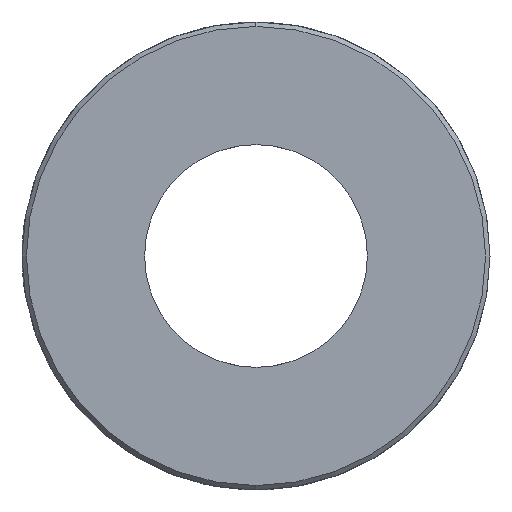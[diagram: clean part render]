
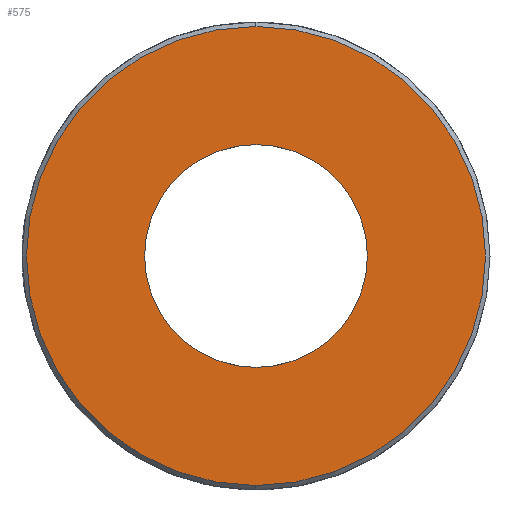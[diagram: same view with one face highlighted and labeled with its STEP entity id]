
A CAD part, left-side view. The second image highlights one B-rep face of the part: STEP entity #575.
In plain terms, the highlighted planar face has unit normal (-1, 0, 0) as drawn and (0, 0, 1) by its records, which use the part's own axes.
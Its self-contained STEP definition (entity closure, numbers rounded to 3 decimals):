
#39 = AXIS2_PLACEMENT_3D ( 'NONE', #410, #109, #480 ) ;
#85 = VERTEX_POINT ( 'NONE', #1339 ) ;
#109 = DIRECTION ( 'NONE',  ( 0., 0., 1. ) ) ;
#118 = PLANE ( 'NONE',  #517 ) ;
#130 = AXIS2_PLACEMENT_3D ( 'NONE', #1587, #1397, #795 ) ;
#144 = EDGE_CURVE ( 'NONE', #85, #1622, #930, .T. ) ;
#267 = FACE_OUTER_BOUND ( 'NONE', #1598, .T. ) ;
#354 = ORIENTED_EDGE ( 'NONE', *, *, #144, .F. ) ;
#360 = CARTESIAN_POINT ( 'NONE',  ( 0., 0., 5.5 ) ) ;
#410 = CARTESIAN_POINT ( 'NONE',  ( 0., 0., 5.5 ) ) ;
#480 = DIRECTION ( 'NONE',  ( 1., 0., 0. ) ) ;
#517 = AXIS2_PLACEMENT_3D ( 'NONE', #725, #605, #1668 ) ;
#520 = AXIS2_PLACEMENT_3D ( 'NONE', #1686, #1973, #773 ) ;
#575 = ADVANCED_FACE ( 'NONE', ( #267, #878 ), #118, .T. ) ;
#605 = DIRECTION ( 'NONE',  ( 0., 0., 1. ) ) ;
#628 = VERTEX_POINT ( 'NONE', #1543 ) ;
#725 = CARTESIAN_POINT ( 'NONE',  ( 0., 0., 5.5 ) ) ;
#773 = DIRECTION ( 'NONE',  ( 1., 0., 0. ) ) ;
#795 = DIRECTION ( 'NONE',  ( 1., 0., 0. ) ) ;
#828 = VERTEX_POINT ( 'NONE', #1862 ) ;
#834 = AXIS2_PLACEMENT_3D ( 'NONE', #360, #1584, #1242 ) ;
#878 = FACE_BOUND ( 'NONE', #1038, .T. ) ;
#930 = CIRCLE ( 'NONE', #39, 5. ) ;
#1038 = EDGE_LOOP ( 'NONE', ( #1625, #354 ) ) ;
#1175 = EDGE_CURVE ( 'NONE', #828, #628, #1925, .T. ) ;
#1212 = ORIENTED_EDGE ( 'NONE', *, *, #1175, .T. ) ;
#1242 = DIRECTION ( 'NONE',  ( 1., 0., 0. ) ) ;
#1289 = EDGE_CURVE ( 'NONE', #628, #828, #1739, .T. ) ;
#1339 = CARTESIAN_POINT ( 'NONE',  ( 5., 0., 5.5 ) ) ;
#1397 = DIRECTION ( 'NONE',  ( 0., 0., 1. ) ) ;
#1488 = ORIENTED_EDGE ( 'NONE', *, *, #1289, .T. ) ;
#1529 = CARTESIAN_POINT ( 'NONE',  ( -5., 0., 5.5 ) ) ;
#1543 = CARTESIAN_POINT ( 'NONE',  ( -10.3, 0., 5.5 ) ) ;
#1584 = DIRECTION ( 'NONE',  ( 0., 0., 1. ) ) ;
#1587 = CARTESIAN_POINT ( 'NONE',  ( 0., 0., 5.5 ) ) ;
#1598 = EDGE_LOOP ( 'NONE', ( #1488, #1212 ) ) ;
#1622 = VERTEX_POINT ( 'NONE', #1529 ) ;
#1625 = ORIENTED_EDGE ( 'NONE', *, *, #1728, .F. ) ;
#1668 = DIRECTION ( 'NONE',  ( 1., 0., 0. ) ) ;
#1686 = CARTESIAN_POINT ( 'NONE',  ( 0., 0., 5.5 ) ) ;
#1697 = CIRCLE ( 'NONE', #834, 5. ) ;
#1728 = EDGE_CURVE ( 'NONE', #1622, #85, #1697, .T. ) ;
#1739 = CIRCLE ( 'NONE', #130, 10.3 ) ;
#1862 = CARTESIAN_POINT ( 'NONE',  ( 10.3, 0., 5.5 ) ) ;
#1925 = CIRCLE ( 'NONE', #520, 10.3 ) ;
#1973 = DIRECTION ( 'NONE',  ( 0., 0., 1. ) ) ;
